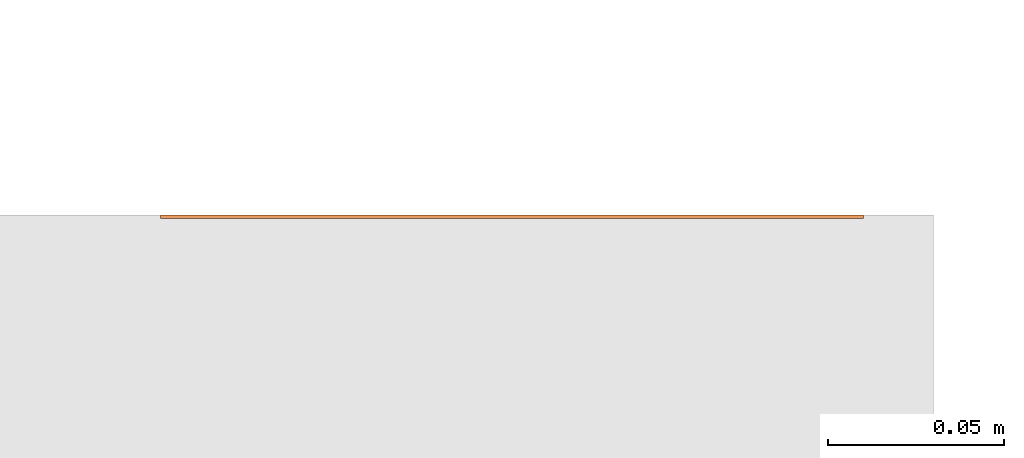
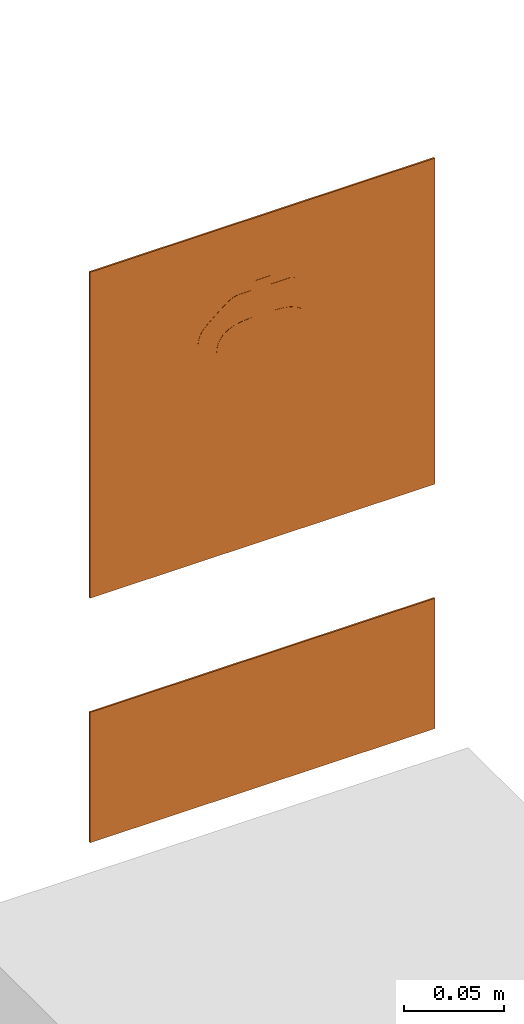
# One storey, part 68 of 119: 2 proxies.
"""IFC2X3 building model written with IfcOpenShell, lengths in metres."""

from ifc_helpers import new_model, entity, si_unit, converted_unit, derived_unit, direction, frame, frame_2d, origin, origin_2d_with_axis, place, context, subcontext, project, spatial, polyline, circle_curve, parameter, trimmed, segment, composite_curve, rectangle, outline, extrude, source, transform, mapped, material, material_list, type_object, type_shapes, element, save


model = new_model("IFC2X3")

# Units and contexts
model_context = context("Model", 3, precision=1e-05, world=origin(), true_north=direction((6.12303176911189e-17, 1.0)))
body_context = subcontext(model_context, "Body", "Model", "MODEL_VIEW")
ifc_project = project(units=[si_unit("LENGTHUNIT", "METRE"), si_unit("AREAUNIT", "SQUARE_METRE"), si_unit("VOLUMEUNIT", "CUBIC_METRE"), converted_unit("PLANEANGLEUNIT", "DEGREE", entity("IfcRatioMeasure", 0.0174532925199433), si_unit("PLANEANGLEUNIT", "RADIAN"), dimensions=[0, 0, 0, 0, 0, 0, 0]), si_unit("MASSUNIT", "GRAM", prefix="KILO"), derived_unit("MASSDENSITYUNIT", [(si_unit("MASSUNIT", "GRAM", prefix="KILO"), 1), (si_unit("LENGTHUNIT", "METRE"), -3)]), derived_unit("MOMENTOFINERTIAUNIT", [(si_unit("LENGTHUNIT", "METRE"), 4)]), si_unit("TIMEUNIT", "SECOND"), si_unit("FREQUENCYUNIT", "HERTZ"), si_unit("THERMODYNAMICTEMPERATUREUNIT", "DEGREE_CELSIUS"), derived_unit("THERMALTRANSMITTANCEUNIT", [(si_unit("MASSUNIT", "GRAM", prefix="KILO"), 1), (si_unit("THERMODYNAMICTEMPERATUREUNIT", "KELVIN"), -1), (si_unit("TIMEUNIT", "SECOND"), -3)]), derived_unit("VOLUMETRICFLOWRATEUNIT", [(si_unit("LENGTHUNIT", "METRE"), 3), (si_unit("TIMEUNIT", "SECOND"), -1)]), si_unit("ELECTRICCURRENTUNIT", "AMPERE"), si_unit("ELECTRICVOLTAGEUNIT", "VOLT"), si_unit("POWERUNIT", "WATT"), si_unit("FORCEUNIT", "NEWTON", prefix="KILO"), si_unit("ILLUMINANCEUNIT", "LUX"), si_unit("LUMINOUSFLUXUNIT", "LUMEN"), si_unit("LUMINOUSINTENSITYUNIT", "CANDELA"), derived_unit("USERDEFINED", [(si_unit("MASSUNIT", "GRAM", prefix="KILO"), -1), (si_unit("LENGTHUNIT", "METRE"), -2), (si_unit("TIMEUNIT", "SECOND"), 3), (si_unit("LUMINOUSFLUXUNIT", "LUMEN"), 1)]), derived_unit("LINEARVELOCITYUNIT", [(si_unit("LENGTHUNIT", "METRE"), 1), (si_unit("TIMEUNIT", "SECOND"), -1)]), si_unit("PRESSUREUNIT", "PASCAL"), derived_unit("USERDEFINED", [(si_unit("LENGTHUNIT", "METRE"), -2), (si_unit("MASSUNIT", "GRAM", prefix="KILO"), 1), (si_unit("TIMEUNIT", "SECOND"), -2)]), derived_unit("LINEARFORCEUNIT", [(si_unit("MASSUNIT", "GRAM", prefix="KILO"), 1), (si_unit("LENGTHUNIT", "METRE"), 1), (si_unit("TIMEUNIT", "SECOND"), -2), (si_unit("LENGTHUNIT", "METRE"), -1)]), derived_unit("PLANARFORCEUNIT", [(si_unit("MASSUNIT", "GRAM", prefix="KILO"), 1), (si_unit("LENGTHUNIT", "METRE"), 1), (si_unit("TIMEUNIT", "SECOND"), -2), (si_unit("LENGTHUNIT", "METRE"), -2)])], contexts=[model_context])

# Site, building, storey
site_placement = place(None, origin())
site = spatial("IfcSite", under=ifc_project, at=site_placement, Name="Default", CompositionType="ELEMENT")
building_placement = place(site_placement, origin())
building = spatial("IfcBuilding", under=site, at=building_placement, CompositionType="ELEMENT")
storey_placement = place(building_placement, origin())
storey = spatial("IfcBuildingStorey", under=building, at=storey_placement, Name="PAV. 01 - TÉRREO", CompositionType="ELEMENT", Elevation=0.0)

# Proxies
ifc_material_1 = material(Name="Plastico branco")
ifc_material_2 = material(Name="Plastico vermelho")
ifc_material_list_1 = material_list([ifc_material_1, ifc_material_2])
building_element_proxy_type_1 = type_object("IfcBuildingElementProxyType", Name="Sinalização de equipamentos - E05 - Extintor de incêndio:Distância 08m", PredefinedType="NOTDEFINED", material=ifc_material_1)
shared_shape_1 = source(origin(), body_context, "Body", "SweptSolid", [
    extrude(outline(composite_curve([segment(polyline([(-0.039533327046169, -0.0988107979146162), (0.0136590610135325, -0.0988107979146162)]), True, "CONTINUOUS"), segment(polyline([(0.0136590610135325, -0.0988107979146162), (0.0136590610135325, -0.0150548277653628)]), True, "CONTINUOUS"), segment(polyline([(0.0136590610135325, -0.0150548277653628), (0.0132403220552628, -0.0112272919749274)]), True, "CONTINUOUS"), segment(polyline([(0.0132403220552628, -0.0112272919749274), (0.0119841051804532, -0.00798860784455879)]), True, "CONTINUOUS"), segment(polyline([(0.0119841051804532, -0.00798860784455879), (0.00989041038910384, -0.00533877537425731)]), True, "CONTINUOUS"), segment(polyline([(0.00989041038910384, -0.00533877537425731), (0.00695923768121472, -0.00327779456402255)]), True, "CONTINUOUS"), segment(polyline([(0.00695923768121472, -0.00327779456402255), (0.00319058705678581, -0.00180566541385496)]), True, "CONTINUOUS"), segment(polyline([(0.00319058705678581, -0.00180566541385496), (-0.00141554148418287, -0.000922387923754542)]), True, "CONTINUOUS"), segment(polyline([(-0.00141554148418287, -0.000922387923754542), (-0.00685914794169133, -0.000627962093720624)]), True, "CONTINUOUS"), segment(polyline([(-0.00685914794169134, -0.000627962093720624), (-0.00685914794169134, 0.00837547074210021)]), True, "CONTINUOUS"), segment(polyline([(-0.00685914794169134, 0.00837547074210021), (0.000568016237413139, 0.00837547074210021)]), True, "CONTINUOUS"), segment(polyline([(0.000568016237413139, 0.00837547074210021), (0.021500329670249, -0.0075875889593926)]), True, "CONTINUOUS"), segment(polyline([(0.021500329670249, -0.0075875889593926), (0.021500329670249, -0.0104328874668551)]), True, "CONTINUOUS"), segment(polyline([(0.021500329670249, -0.0104328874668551), (0.0245059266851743, -0.0104328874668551)]), True, "CONTINUOUS"), segment(polyline([(0.0245059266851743, -0.0104328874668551), (0.0245059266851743, -0.00811335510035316)]), True, "CONTINUOUS"), segment(polyline([(0.0245059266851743, -0.00811335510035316), (0.0243642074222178, -0.00545038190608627)]), True, "CONTINUOUS"), segment(polyline([(0.0243642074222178, -0.00545038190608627), (0.0239570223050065, -0.0032112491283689)]), True, "CONTINUOUS"), segment(polyline([(0.0239570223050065, -0.0032112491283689), (0.0233113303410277, -0.00132119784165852)]), True, "CONTINUOUS"), segment(polyline([(0.0233113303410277, -0.00132119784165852), (0.0224540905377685, 0.00029453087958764)]), True, "CONTINUOUS"), segment(polyline([(0.0224540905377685, 0.00029453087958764), (0.0214122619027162, 0.00171069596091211)]), True, "CONTINUOUS"), segment(polyline([(0.0214122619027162, 0.00171069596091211), (0.0202128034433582, 0.00300205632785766)]), True, "CONTINUOUS"), segment(polyline([(0.0202128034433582, 0.00300205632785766), (0.0188826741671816, 0.00424337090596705)]), True, "CONTINUOUS"), segment(polyline([(0.0188826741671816, 0.00424337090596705), (0.0144021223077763, 0.00811180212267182)]), True, "CONTINUOUS"), segment(polyline([(0.0144021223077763, 0.00811180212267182), (0.0113518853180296, 0.0106145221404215)]), True, "CONTINUOUS"), segment(polyline([(0.0113518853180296, 0.0106145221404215), (0.0085825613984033, 0.0127576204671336)]), True, "CONTINUOUS"), segment(polyline([(0.0085825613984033, 0.0127576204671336), (0.00738733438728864, 0.0136170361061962)]), True, "CONTINUOUS"), segment(polyline([(0.00738733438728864, 0.0136170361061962), (0.00631521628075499, 0.0143235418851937)]), True, "CONTINUOUS"), segment(polyline([(0.00631521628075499, 0.0143235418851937), (0.00532850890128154, 0.0148903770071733)]), True, "CONTINUOUS"), segment(polyline([(0.00532850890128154, 0.0148903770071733), (0.00438926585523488, 0.0153309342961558)]), True, "CONTINUOUS"), segment(polyline([(0.00438926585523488, 0.0153309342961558), (0.00345954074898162, 0.0156586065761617)]), True, "CONTINUOUS"), segment(polyline([(0.00345954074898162, 0.0156586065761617), (0.00250138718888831, 0.0158867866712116)]), True, "CONTINUOUS"), segment(polyline([(0.00250138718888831, 0.0158867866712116), (0.00144087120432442, 0.0160289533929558)]), True, "CONTINUOUS"), segment(polyline([(0.00144087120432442, 0.0160289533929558), (-0.000108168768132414, 0.0160993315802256)]), True, "CONTINUOUS"), segment(polyline([(-0.000108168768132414, 0.0160993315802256), (-0.00685914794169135, 0.0160831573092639)]), True, "CONTINUOUS"), segment(polyline([(-0.00685914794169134, 0.0160831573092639), (-0.00685914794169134, 0.0213863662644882)]), True, "CONTINUOUS"), segment(polyline([(-0.00685914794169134, 0.0213863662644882), (-0.0177728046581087, 0.0213863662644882)]), True, "CONTINUOUS"), segment(polyline([(-0.0177728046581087, 0.0213863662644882), (-0.0177728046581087, 0.0160831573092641)]), True, "CONTINUOUS"), segment(polyline([(-0.0177728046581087, 0.0160831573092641), (-0.0288467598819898, 0.0160831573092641)]), True, "CONTINUOUS"), segment(trimmed(circle_curve(frame_2d((-0.0288467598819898, 0.0122293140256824), x_axis=(-1.0, 0.0)), 0.00385384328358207), [parameter(270.0)], [parameter(90.0000000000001)], True, "PARAMETER"), True, "CONTINUOUS"), segment(polyline([(-0.0288467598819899, 0.00837547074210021), (-0.0190151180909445, 0.00837547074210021)]), True, "CONTINUOUS"), segment(polyline([(-0.0190151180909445, 0.00837547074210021), (-0.0190151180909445, -0.000627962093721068)]), True, "CONTINUOUS"), segment(polyline([(-0.0190151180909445, -0.000627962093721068), (-0.024458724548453, -0.000922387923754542)]), True, "CONTINUOUS"), segment(polyline([(-0.024458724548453, -0.000922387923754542), (-0.0290648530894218, -0.00180566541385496)]), True, "CONTINUOUS"), segment(polyline([(-0.0290648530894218, -0.00180566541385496), (-0.0328335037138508, -0.00327779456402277)]), True, "CONTINUOUS"), segment(polyline([(-0.0328335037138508, -0.00327779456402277), (-0.03576467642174, -0.00533877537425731)]), True, "CONTINUOUS"), segment(polyline([(-0.03576467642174, -0.00533877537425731), (-0.0378583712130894, -0.00798860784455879)]), True, "CONTINUOUS"), segment(polyline([(-0.0378583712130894, -0.00798860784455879), (-0.0391145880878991, -0.0112272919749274)]), True, "CONTINUOUS"), segment(polyline([(-0.0391145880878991, -0.0112272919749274), (-0.039533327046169, -0.0150548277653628)]), True, "CONTINUOUS"), segment(polyline([(-0.039533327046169, -0.0150548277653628), (-0.039533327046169, -0.0988107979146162)]), True, "CONTINUOUS")], self_intersect=False)), frame((-0.0129371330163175, -0.0011, 1.94006139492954), z_axis=(0.0, 1.0, 0.0), x_axis=(-1.0, 0.0, 0.0)), (0.0, 0.0, 1.0), 0.0011),
    extrude(rectangle(XDim=0.001, YDim=0.179, at=origin_2d_with_axis()), frame((0.0, -0.0005, 1.8105), z_axis=(0.0, 0.0, 1.0), x_axis=(0.0, 1.0, 0.0)), (0.0, 0.0, 1.0), 0.179),
    extrude(outline(polyline([(-0.100000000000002, -0.1), (0.100000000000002, -0.1), (0.100000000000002, 0.1), (-0.100000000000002, 0.1), (-0.100000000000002, -0.1)]), holes=[polyline([(-0.0895000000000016, -0.0895000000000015), (-0.0895000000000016, 0.0894999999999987), (0.0894999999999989, 0.0894999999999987), (0.0894999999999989, -0.0895000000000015), (-0.0895000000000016, -0.0895000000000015)])]), frame((0.0, -0.001, 1.9), z_axis=(0.0, 1.0, 0.0), x_axis=(0.0, 0.0, -1.0)), (0.0, 0.0, 1.0), 0.001),
])
type_shapes(building_element_proxy_type_1, [shared_shape_1])
proxy_1_placement = place(storey_placement, frame((-2.07521353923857, 29.6371958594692, 0.0)))
element("IfcBuildingElementProxy", 1, at=proxy_1_placement, inside=storey, type_object=building_element_proxy_type_1, material=ifc_material_list_1, Name="Sinalização de equipamentos - E05 - Extintor de incêndio:Distância 08m", ObjectType="Sinalização de equipamentos - E05 - Extintor de incêndio:Distância 08m", context=body_context, shape_type="MappedRepresentation", body=[
    mapped(shared_shape_1, transform((0.0, 0.0, 0.0), scale=1.0)),
])
ifc_material_3 = material(Name="Plastico Preto")
ifc_material_4 = material(Name="Plastico azul claro")
ifc_material_5 = material(Name="Plastico Verde")
ifc_material_list_2 = material_list([ifc_material_3, ifc_material_4, ifc_material_2, ifc_material_1, ifc_material_5])
building_element_proxy_type_2 = type_object("IfcBuildingElementProxyType", Name="Sinalização de equipamentos - E05 - Extintor de incêndio - TIPO 2:Placa de extintor - E6-A", PredefinedType="NOTDEFINED", material=ifc_material_3)
shared_shape_2 = source(origin(), body_context, "Body", "SweptSolid", [
    extrude(rectangle(XDim=0.001, YDim=0.0243464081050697, at=origin_2d_with_axis()), frame((0.0791678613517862, -0.0005, 0.0143679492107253), z_axis=(0.0, 0.0, 1.0), x_axis=(0.0, 1.0, 0.0)), (0.0, 0.0, 1.0), 0.0243153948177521),
    extrude(rectangle(XDim=0.001, YDim=0.0243464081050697, at=origin_2d_with_axis()), frame((0.0514092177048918, -0.0005, 0.0143679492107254), z_axis=(0.0, 0.0, 1.0), x_axis=(0.0, 1.0, 0.0)), (0.0, 0.0, 1.0), 0.0243153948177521),
    extrude(rectangle(XDim=0.001, YDim=0.0243464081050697, at=origin_2d_with_axis()), frame((0.023605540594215, -0.0005, 0.0143679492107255), z_axis=(0.0, 0.0, 1.0), x_axis=(0.0, 1.0, 0.0)), (0.0, 0.0, 1.0), 0.0243153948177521),
    extrude(rectangle(XDim=0.001, YDim=0.0243464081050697, at=origin_2d_with_axis()), frame((-0.00415310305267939, -0.0005, 0.0143679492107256), z_axis=(0.0, 0.0, 1.0), x_axis=(0.0, 1.0, 0.0)), (0.0, 0.0, 1.0), 0.0243153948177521),
    extrude(outline(polyline([(-0.0399999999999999, -0.1), (0.0399999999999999, -0.1), (0.0399999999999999, 0.1), (-0.0399999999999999, 0.1), (-0.0399999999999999, -0.1)]), holes=[polyline([(-0.0319999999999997, 0.091), (-0.0150022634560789, 0.091), (-0.0150022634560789, -0.091), (-0.0319999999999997, -0.091), (-0.0319999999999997, 0.091)]), polyline([(-0.010791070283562, 0.091), (0.0319999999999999, 0.091), (0.0319999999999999, 0.0473282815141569), (-0.010791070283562, 0.0473282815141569), (-0.010791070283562, 0.091)]), polyline([(0.00131665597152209, 0.0441091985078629), (0.0256320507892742, 0.0441091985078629), (0.0256320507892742, 0.0197627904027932), (0.00131665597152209, 0.0197627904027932), (0.00131665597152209, 0.0441091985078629)]), polyline([(0.00131665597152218, 0.0163263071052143), (0.0256320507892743, 0.0163263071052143), (0.0256320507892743, -0.00802010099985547), (0.00131665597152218, -0.00802010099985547), (0.00131665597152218, 0.0163263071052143)]), polyline([(0.00131665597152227, -0.0114323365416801), (0.0256320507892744, -0.0114323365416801), (0.0256320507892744, -0.0357787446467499), (0.00131665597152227, -0.0357787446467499), (0.00131665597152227, -0.0114323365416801)]), polyline([(0.00131665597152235, -0.0635824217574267), (0.00131665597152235, -0.039236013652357), (0.0256320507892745, -0.039236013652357), (0.0256320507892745, -0.0635824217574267), (0.00131665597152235, -0.0635824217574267)]), polyline([(0.00131665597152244, -0.0669946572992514), (0.0256320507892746, -0.0669946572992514), (0.0256320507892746, -0.091), (0.00131665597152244, -0.091), (0.00131665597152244, -0.0669946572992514)])]), frame((0.0, -0.001, 0.0399999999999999), z_axis=(0.0, 1.0, 0.0), x_axis=(0.0, 0.0, -1.0)), (0.0, 0.0, 1.0), 0.001),
    extrude(outline(composite_curve([segment(trimmed(circle_curve(frame_2d((-0.00182713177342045, 0.0030692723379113), x_axis=(1.0, 0.0)), 0.00333179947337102), [parameter(180.0)], [parameter(270.0)], True, "PARAMETER"), True, "CONTINUOUS"), segment(polyline([(-0.00182713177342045, -0.000262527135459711), (-0.000430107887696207, -0.000262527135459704)]), True, "CONTINUOUS"), segment(polyline([(-0.000430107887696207, -0.000262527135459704), (-0.000430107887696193, -0.00350797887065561)]), True, "CONTINUOUS"), segment(polyline([(-0.000430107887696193, -0.00350797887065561), (-0.00249820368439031, -0.00350797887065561)]), True, "CONTINUOUS"), segment(polyline([(-0.00249820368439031, -0.00350797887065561), (-0.00742535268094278, 7.18044171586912e-05)]), True, "CONTINUOUS"), segment(polyline([(-0.00742535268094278, 7.18044171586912e-05), (-0.00742535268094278, 0.00166630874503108)]), True, "CONTINUOUS"), segment(polyline([(-0.00742535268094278, 0.00166630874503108), (-0.00871124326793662, 0.00166630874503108)]), True, "CONTINUOUS"), segment(polyline([(-0.00871124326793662, 0.00166630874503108), (-0.00846384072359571, -0.00134355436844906)]), True, "CONTINUOUS"), segment(trimmed(circle_curve(frame_2d((-0.00608099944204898, -0.00114769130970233), x_axis=(1.0, 0.0)), 0.00239087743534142), [parameter(184.698993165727)], [parameter(232.0)], True, "PARAMETER"), True, "CONTINUOUS"), segment(polyline([(-0.00755297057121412, -0.00303172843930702), (-0.0030496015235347, -0.00655014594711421)]), True, "CONTINUOUS"), segment(polyline([(-0.0030496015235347, -0.00655014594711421), (-0.000124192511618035, -0.00655014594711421)]), True, "CONTINUOUS"), segment(polyline([(-0.000124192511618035, -0.00655014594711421), (-0.000124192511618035, -0.00788602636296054)]), True, "CONTINUOUS"), segment(polyline([(-0.000124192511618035, -0.00788602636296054), (0.003207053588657, -0.00788602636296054)]), True, "CONTINUOUS"), segment(polyline([(0.003207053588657, -0.00788602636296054), (0.003207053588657, -0.00698801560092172)]), True, "CONTINUOUS"), segment(polyline([(0.003207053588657, -0.00698801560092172), (0.00540783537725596, -0.00698801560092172)]), True, "CONTINUOUS"), segment(polyline([(0.00540783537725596, -0.00698801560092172), (0.00665542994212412, -0.00574042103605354)]), True, "CONTINUOUS"), segment(polyline([(0.00665542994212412, -0.00574042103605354), (0.00665542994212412, -0.00450724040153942)]), True, "CONTINUOUS"), segment(polyline([(0.00665542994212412, -0.00450724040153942), (0.00491919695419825, -0.00324579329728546)]), True, "CONTINUOUS"), segment(polyline([(0.00491919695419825, -0.00324579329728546), (0.00355615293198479, -0.00324579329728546)]), True, "CONTINUOUS"), segment(polyline([(0.00355615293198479, -0.00324579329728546), (0.00355615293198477, -0.000262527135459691)]), True, "CONTINUOUS"), segment(polyline([(0.00355615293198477, -0.000262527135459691), (0.00500257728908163, -0.000262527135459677)]), True, "CONTINUOUS"), segment(trimmed(circle_curve(frame_2d((0.00500257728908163, 0.00284153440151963), x_axis=(1.0, 0.0)), 0.00310406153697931), [parameter(270.0)], [parameter(1.52666624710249e-13)], True, "PARAMETER"), True, "CONTINUOUS"), segment(polyline([(0.00810663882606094, 0.00284153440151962), (0.0081066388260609, 0.0313568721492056)]), True, "CONTINUOUS"), segment(polyline([(0.0081066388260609, 0.0313568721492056), (-0.00515893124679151, 0.0313568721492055)]), True, "CONTINUOUS"), segment(polyline([(-0.00515893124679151, 0.0313568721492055), (-0.00515893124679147, 0.00306927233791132)]), True, "CONTINUOUS")], self_intersect=False)), frame((-0.0705753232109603, -0.001, 0.0413479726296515), z_axis=(0.0, 1.0, 0.0), x_axis=(1.0, 0.0, 0.0)), (0.0, 0.0, 1.0), 0.001),
    extrude(rectangle(XDim=0.001, YDim=0.0243464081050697, at=origin_2d_with_axis()), frame((-0.0319359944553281, -0.0005, 0.0143679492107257), z_axis=(0.0, 0.0, 1.0), x_axis=(0.0, 1.0, 0.0)), (0.0, 0.0, 1.0), 0.0243153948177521),
    extrude(outline(polyline([(-0.0218358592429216, -0.021395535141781), (0.0218358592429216, -0.021395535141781), (0.0218358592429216, 0.021395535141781), (-0.0218358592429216, 0.021395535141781), (-0.0218358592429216, -0.021395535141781)]), holes=[composite_curve([segment(polyline([(-0.00669545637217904, -0.0194044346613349), (-0.00669545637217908, 0.00911090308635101)]), True, "CONTINUOUS"), segment(trimmed(circle_curve(frame_2d((-0.00359139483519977, 0.00911090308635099), x_axis=(-1.0, 0.0)), 0.00310406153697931), [parameter(270.0)], [parameter(360.0)], True, "PARAMETER"), False, "CONTINUOUS"), segment(polyline([(-0.0035913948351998, 0.0122149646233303), (-0.00214497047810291, 0.0122149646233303)]), True, "CONTINUOUS"), segment(polyline([(-0.00214497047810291, 0.0122149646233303), (-0.00214497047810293, 0.0151982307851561)]), True, "CONTINUOUS"), segment(polyline([(-0.00214497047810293, 0.0151982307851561), (-0.0035080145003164, 0.0151982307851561)]), True, "CONTINUOUS"), segment(polyline([(-0.0035080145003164, 0.0151982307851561), (-0.00524424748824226, 0.01645967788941)]), True, "CONTINUOUS"), segment(polyline([(-0.00524424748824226, 0.01645967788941), (-0.00524424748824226, 0.0176928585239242)]), True, "CONTINUOUS"), segment(polyline([(-0.00524424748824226, 0.0176928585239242), (-0.0039966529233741, 0.0189404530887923)]), True, "CONTINUOUS"), segment(polyline([(-0.0039966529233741, 0.0189404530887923), (-0.00179587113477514, 0.0189404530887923)]), True, "CONTINUOUS"), segment(polyline([(-0.00179587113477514, 0.0189404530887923), (-0.00179587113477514, 0.0198384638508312)]), True, "CONTINUOUS"), segment(polyline([(-0.00179587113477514, 0.0198384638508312), (0.00153537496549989, 0.0198384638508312)]), True, "CONTINUOUS"), segment(polyline([(0.00153537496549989, 0.0198384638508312), (0.00153537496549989, 0.0185025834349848)]), True, "CONTINUOUS"), segment(polyline([(0.00153537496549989, 0.0185025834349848), (0.00446078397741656, 0.0185025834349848)]), True, "CONTINUOUS"), segment(polyline([(0.00446078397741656, 0.0185025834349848), (0.00896415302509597, 0.0149841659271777)]), True, "CONTINUOUS"), segment(trimmed(circle_curve(frame_2d((0.00749218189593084, 0.0131001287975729), x_axis=(-1.0, 0.0)), 0.00239087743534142), [parameter(184.698993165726)], [parameter(231.999999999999)], True, "PARAMETER"), False, "CONTINUOUS"), segment(polyline([(0.00987502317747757, 0.0132959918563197), (0.0101224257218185, 0.0102861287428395)]), True, "CONTINUOUS"), segment(polyline([(0.0101224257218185, 0.0102861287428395), (0.00883653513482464, 0.0102861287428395)]), True, "CONTINUOUS"), segment(polyline([(0.00883653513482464, 0.0102861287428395), (0.00883653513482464, 0.0118806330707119)]), True, "CONTINUOUS"), segment(polyline([(0.00883653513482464, 0.0118806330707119), (0.00390938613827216, 0.0154604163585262)]), True, "CONTINUOUS"), segment(polyline([(0.00390938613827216, 0.0154604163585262), (0.00184129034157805, 0.0154604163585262)]), True, "CONTINUOUS"), segment(polyline([(0.00184129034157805, 0.0154604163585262), (0.00184129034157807, 0.0122149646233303)]), True, "CONTINUOUS"), segment(polyline([(0.00184129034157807, 0.0122149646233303), (0.00323831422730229, 0.0122149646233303)]), True, "CONTINUOUS"), segment(trimmed(circle_curve(frame_2d((0.00323831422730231, 0.00888316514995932), x_axis=(-1.0, 0.0)), 0.00333179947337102), [parameter(180.0)], [parameter(270.0)], True, "PARAMETER"), False, "CONTINUOUS"), segment(polyline([(0.00657011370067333, 0.00888316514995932), (0.00657011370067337, -0.0194044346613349)]), True, "CONTINUOUS"), segment(polyline([(0.00657011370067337, -0.0194044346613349), (-0.00669545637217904, -0.0194044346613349)]), True, "CONTINUOUS")], self_intersect=False)]), frame((-0.0691641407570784, -0.001, 0.0293955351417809), z_axis=(0.0, 1.0, 0.0), x_axis=(-1.0, 0.0, 0.0)), (0.0, 0.0, 1.0), 0.001),
    extrude(rectangle(XDim=0.001, YDim=0.182, at=origin_2d_with_axis()), frame((0.0, -0.0005, 0.0550022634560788), z_axis=(0.0, 0.0, 1.0), x_axis=(0.0, 1.0, 0.0)), (0.0, 0.0, 1.0), 0.0169977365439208),
])
type_shapes(building_element_proxy_type_2, [shared_shape_2])
proxy_2_placement = place(storey_placement, frame((-2.07521353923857, 29.6371958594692, 1.65)))
element("IfcBuildingElementProxy", 2, at=proxy_2_placement, inside=storey, type_object=building_element_proxy_type_2, material=ifc_material_list_2, Name="Sinalização de equipamentos - E05 - Extintor de incêndio - TIPO 2:Placa de extintor - E6-A", ObjectType="Sinalização de equipamentos - E05 - Extintor de incêndio - TIPO 2:Placa de extintor - E6-A", context=body_context, shape_type="MappedRepresentation", body=[
    mapped(shared_shape_2, transform((0.0, 0.0, 0.0), scale=1.0)),
])

save(model, "model.ifc")
